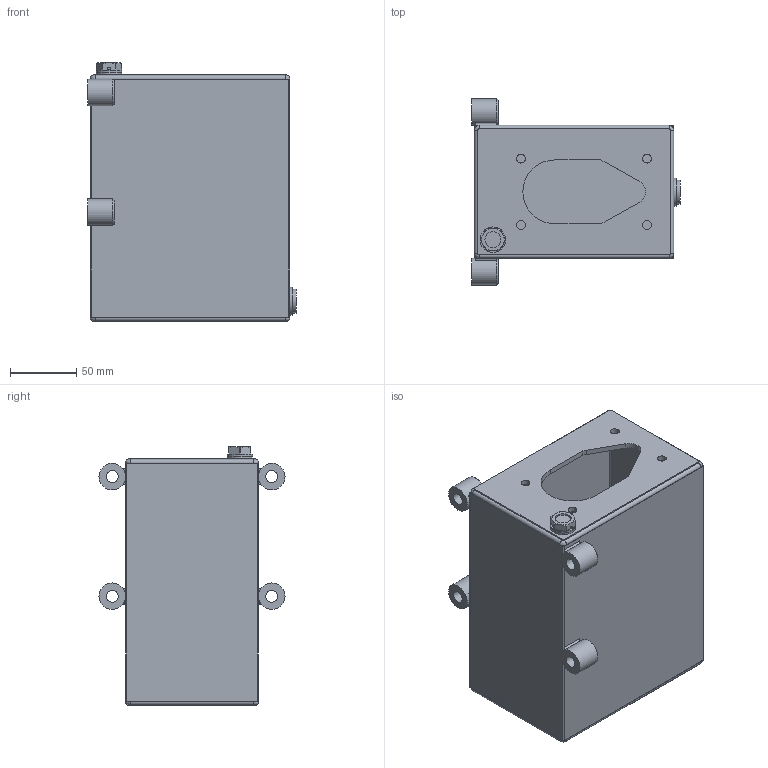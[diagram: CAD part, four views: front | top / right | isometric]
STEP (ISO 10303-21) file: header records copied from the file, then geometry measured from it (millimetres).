
FILE_DESCRIPTION(/* description */ (''),/* implementation_level */ '2;1');
FILE_NAME(/* name */ '6500.0268.stp',/* time_stamp */ '2025-11-03T08:05:37+01:00',/* author */ ('christian.scardovi'),/* organization */ (''),/* preprocessor_version */ 'ST-DEVELOPER v20.1',/* originating_system */ 'Autodesk Inventor 2026',/* authorisation */ '');
FILE_SCHEMA (('AUTOMOTIVE_DESIGN { 1 0 10303 214 3 1 1 }'));
Length unit declared in the file: millimetre
Products named in the file (1): 6500.0268
Bounding box: 157 x 140 x 194.4 mm (x, y, z)
Volume: 376905.4 mm3; surface area: 255693.8 mm2
Topology: 21 solids, 21 shells, 211 faces, 472 edges, 306 vertices
Faces by surface type: plane 105, cylinder 78, cone 19, bspline 8, torus 1
Full cylindrical faces by diameter (mm): 2.15 x1, 6.647 x4, 7.8 x1, 9 x4, 11.445 x2, 12 x1, 13 x2, 13.157 x1, 16 x2, 18 x1, 19 x1, 19.2 x1, 20 x4, 21 x1
Entity records: 6311 total; most frequent: CARTESIAN_POINT 1174, DIRECTION 1057, ORIENTED_EDGE 942, EDGE_CURVE 471, AXIS2_PLACEMENT_3D 404, VERTEX_POINT 306, LINE 249, VECTOR 249
